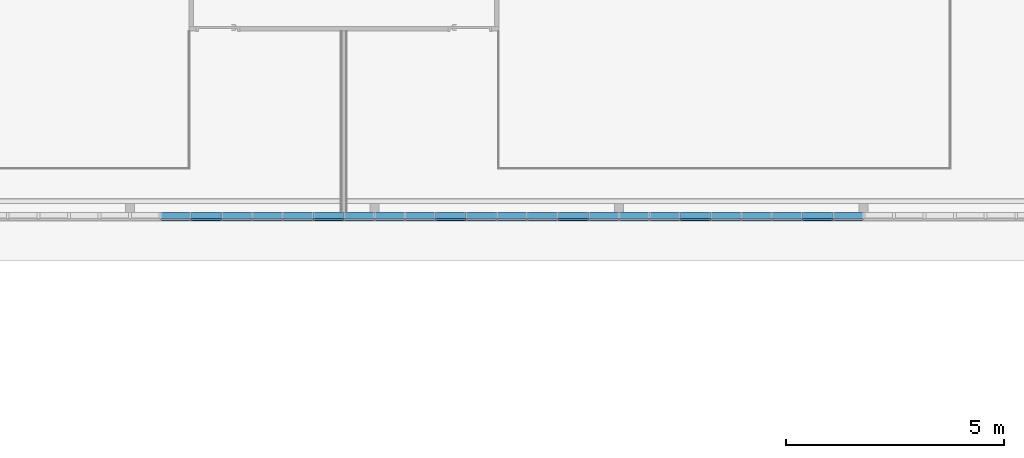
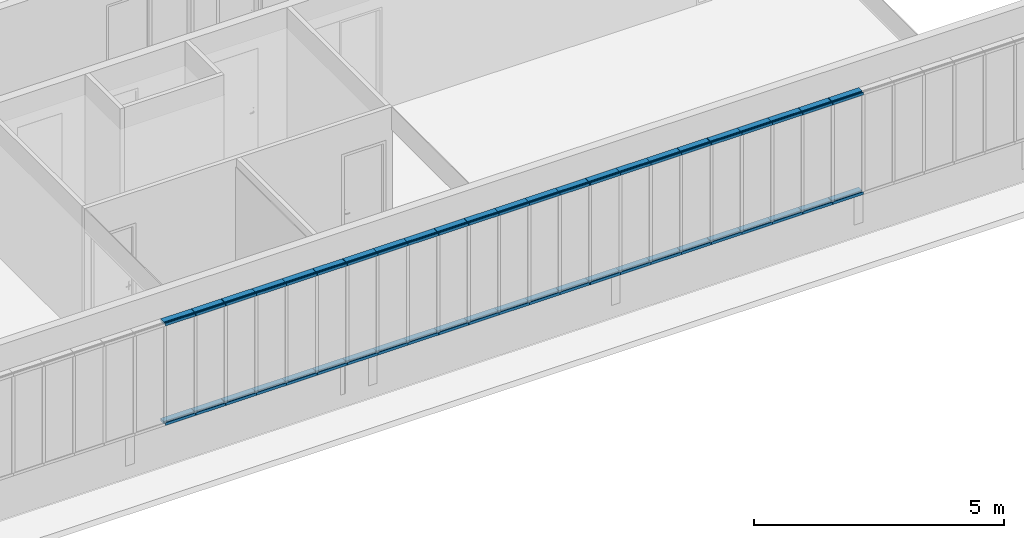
# One storey, part 9 of 87: 58 members, 1 element without a shape of its own.
"""IFC2X3 building model written with IfcOpenShell, lengths in centimetres."""

from ifc_helpers import new_model, entity, si_unit, converted_unit, derived_unit, direction, frame, origin, place, context, subcontext, project, spatial, polyline, outline, extrude, source, transform, mapped, material, type_object, type_shapes, element, aggregate, save


model = new_model("IFC2X3")

# Units and contexts
model_context = context("Model", 3, precision=0.001, world=origin(), true_north=direction((6.12303176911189e-17, 1.0)))
body_context = subcontext(model_context, "Body", "Model", "MODEL_VIEW")
ifc_project = project(units=[si_unit("LENGTHUNIT", "METRE", prefix="CENTI"), si_unit("AREAUNIT", "SQUARE_METRE"), si_unit("VOLUMEUNIT", "CUBIC_METRE"), converted_unit("PLANEANGLEUNIT", "DEGREE", entity("IfcRatioMeasure", 0.0174532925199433), si_unit("PLANEANGLEUNIT", "RADIAN"), dimensions=[0, 0, 0, 0, 0, 0, 0]), si_unit("MASSUNIT", "GRAM", prefix="KILO"), derived_unit("MASSDENSITYUNIT", [(si_unit("MASSUNIT", "GRAM", prefix="KILO"), 1), (si_unit("LENGTHUNIT", "METRE"), -3)]), si_unit("TIMEUNIT", "SECOND"), si_unit("FREQUENCYUNIT", "HERTZ"), si_unit("THERMODYNAMICTEMPERATUREUNIT", "DEGREE_CELSIUS"), derived_unit("THERMALTRANSMITTANCEUNIT", [(si_unit("MASSUNIT", "GRAM", prefix="KILO"), 1), (si_unit("THERMODYNAMICTEMPERATUREUNIT", "KELVIN"), -1), (si_unit("TIMEUNIT", "SECOND"), -3)]), derived_unit("VOLUMETRICFLOWRATEUNIT", [(si_unit("LENGTHUNIT", "METRE"), 3), (si_unit("TIMEUNIT", "SECOND"), -1)]), si_unit("ELECTRICCURRENTUNIT", "AMPERE"), si_unit("ELECTRICVOLTAGEUNIT", "VOLT"), si_unit("POWERUNIT", "WATT"), si_unit("FORCEUNIT", "NEWTON", prefix="KILO"), si_unit("ILLUMINANCEUNIT", "LUX"), si_unit("LUMINOUSFLUXUNIT", "LUMEN"), si_unit("LUMINOUSINTENSITYUNIT", "CANDELA"), derived_unit("USERDEFINED", [(si_unit("MASSUNIT", "GRAM", prefix="KILO"), -1), (si_unit("LENGTHUNIT", "METRE"), -2), (si_unit("TIMEUNIT", "SECOND"), 3), (si_unit("LUMINOUSFLUXUNIT", "LUMEN"), 1)]), derived_unit("LINEARVELOCITYUNIT", [(si_unit("LENGTHUNIT", "METRE"), 1), (si_unit("TIMEUNIT", "SECOND"), -1)]), si_unit("PRESSUREUNIT", "PASCAL"), derived_unit("USERDEFINED", [(si_unit("LENGTHUNIT", "METRE"), -2), (si_unit("MASSUNIT", "GRAM", prefix="KILO"), 1), (si_unit("TIMEUNIT", "SECOND"), -2)])], contexts=[model_context])

# Site, building, storey
site_placement = place(None, frame((-2781.94577612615, 7442.24238424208, 0.0)))
site = spatial("IfcSite", under=ifc_project, at=site_placement, Name="Default", CompositionType="ELEMENT")
building_placement = place(site_placement, origin())
building = spatial("IfcBuilding", under=site, at=building_placement, CompositionType="ELEMENT")
storey_placement = place(building_placement, frame((0.0, 0.0, 774.0)))
storey = spatial("IfcBuildingStorey", under=building, at=storey_placement, Name="TR - N02 - ARCH", CompositionType="ELEMENT", Elevation=774.0)

# Curtain wall, members
curtain_wall_type = type_object("IfcCurtainWallType", Name="Mur-rideau:07 - mur rideau trame 70cm", PredefinedType="NOTDEFINED")
curtain_wall_placement = place(storey_placement, frame((0.0, 0.0, -774.0)))
curtain_wall = element("IfcCurtainWall", 1, at=curtain_wall_placement, inside=storey, type_object=curtain_wall_type, Name="Mur-rideau:07 - mur rideau trame 70cm", ObjectType="Mur-rideau:07 - mur rideau trame 70cm")
ifc_material = material(Name="Aluminium")
member_type_1 = type_object("IfcMemberType", Name="150 x 25mm Détails", PredefinedType="MEMBER")
shared_shape_1 = source(origin(), body_context, "Body", "SweptSolid", [
    extrude(outline(polyline([(-5.6666666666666, -3.24999999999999), (-3.66666666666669, -3.24999999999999), (-3.66666666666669, -0.868749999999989), (-0.166666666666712, -0.868749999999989), (-0.166666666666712, -3.25000000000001), (13.3333333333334, -3.25000000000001), (13.3333333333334, 3.24999999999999), (-0.16666666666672, 3.24999999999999), (-0.16666666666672, 0.868749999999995), (-3.66666666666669, 0.868749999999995), (-3.66666666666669, 3.25), (-5.6666666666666, 3.25), (-5.6666666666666, -3.24999999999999)])), frame((-3.24999999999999, -1.96666666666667, -70.0), z_axis=(0.0, 0.0, 1.0), x_axis=(0.0, -1.0, 0.0)), (0.0, 0.0, 1.0), 69.9999999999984),
])
type_shapes(member_type_1, [shared_shape_1])
member_1_placement = place(storey_placement, frame((-6729.49987763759, -1946.27903364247, 332.5), z_axis=(1.0, 0.0, 0.0), x_axis=(0.0, 0.0, 1.0)))
member_1 = element("IfcMember", 2, at=member_1_placement, type_object=member_type_1, material=ifc_material, Name="Meneau rectangulaire:150 x 25mm Détails", ObjectType="Meneau rectangulaire:150 x 25mm Détails", context=body_context, shape_type="MappedRepresentation", body=[
    mapped(shared_shape_1, transform((0.0, 0.0, 0.0), scale=1.0)),
])
member_2_placement = place(storey_placement, frame((-6659.49987763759, -1946.27903364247, 332.5), z_axis=(1.0, 0.0, 0.0), x_axis=(0.0, 0.0, 1.0)))
member_2 = element("IfcMember", 3, at=member_2_placement, type_object=member_type_1, material=ifc_material, Name="Meneau rectangulaire:150 x 25mm Détails", ObjectType="Meneau rectangulaire:150 x 25mm Détails", context=body_context, shape_type="MappedRepresentation", body=[
    mapped(shared_shape_1, transform((0.0, 0.0, 0.0), scale=1.0)),
])
member_3_placement = place(storey_placement, frame((-6589.49987763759, -1946.27903364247, 332.5), z_axis=(1.0, 0.0, 0.0), x_axis=(0.0, 0.0, 1.0)))
member_3 = element("IfcMember", 4, at=member_3_placement, type_object=member_type_1, material=ifc_material, Name="Meneau rectangulaire:150 x 25mm Détails", ObjectType="Meneau rectangulaire:150 x 25mm Détails", context=body_context, shape_type="MappedRepresentation", body=[
    mapped(shared_shape_1, transform((0.0, 0.0, 0.0), scale=1.0)),
])
member_4_placement = place(storey_placement, frame((-6519.49987763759, -1946.27903364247, 332.5), z_axis=(1.0, 0.0, 0.0), x_axis=(0.0, 0.0, 1.0)))
member_4 = element("IfcMember", 5, at=member_4_placement, type_object=member_type_1, material=ifc_material, Name="Meneau rectangulaire:150 x 25mm Détails", ObjectType="Meneau rectangulaire:150 x 25mm Détails", context=body_context, shape_type="MappedRepresentation", body=[
    mapped(shared_shape_1, transform((0.0, 0.0, 0.0), scale=1.0)),
])
member_5_placement = place(storey_placement, frame((-6449.49987763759, -1946.27903364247, 332.5), z_axis=(1.0, 0.0, 0.0), x_axis=(0.0, 0.0, 1.0)))
member_5 = element("IfcMember", 6, at=member_5_placement, type_object=member_type_1, material=ifc_material, Name="Meneau rectangulaire:150 x 25mm Détails", ObjectType="Meneau rectangulaire:150 x 25mm Détails", context=body_context, shape_type="MappedRepresentation", body=[
    mapped(shared_shape_1, transform((0.0, 0.0, 0.0), scale=1.0)),
])
member_6_placement = place(storey_placement, frame((-6379.49987763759, -1946.27903364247, 332.5), z_axis=(1.0, 0.0, 0.0), x_axis=(0.0, 0.0, 1.0)))
member_6 = element("IfcMember", 7, at=member_6_placement, type_object=member_type_1, material=ifc_material, Name="Meneau rectangulaire:150 x 25mm Détails", ObjectType="Meneau rectangulaire:150 x 25mm Détails", context=body_context, shape_type="MappedRepresentation", body=[
    mapped(shared_shape_1, transform((0.0, 0.0, 0.0), scale=1.0)),
])
member_7_placement = place(storey_placement, frame((-6309.49987763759, -1946.27903364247, 332.5), z_axis=(1.0, 0.0, 0.0), x_axis=(0.0, 0.0, 1.0)))
member_7 = element("IfcMember", 8, at=member_7_placement, type_object=member_type_1, material=ifc_material, Name="Meneau rectangulaire:150 x 25mm Détails", ObjectType="Meneau rectangulaire:150 x 25mm Détails", context=body_context, shape_type="MappedRepresentation", body=[
    mapped(shared_shape_1, transform((0.0, 0.0, 0.0), scale=1.0)),
])
member_8_placement = place(storey_placement, frame((-6239.49987763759, -1946.27903364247, 332.5), z_axis=(1.0, 0.0, 0.0), x_axis=(0.0, 0.0, 1.0)))
member_8 = element("IfcMember", 9, at=member_8_placement, type_object=member_type_1, material=ifc_material, Name="Meneau rectangulaire:150 x 25mm Détails", ObjectType="Meneau rectangulaire:150 x 25mm Détails", context=body_context, shape_type="MappedRepresentation", body=[
    mapped(shared_shape_1, transform((0.0, 0.0, 0.0), scale=1.0)),
])
member_9_placement = place(storey_placement, frame((-6169.49987763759, -1946.27903364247, 332.5), z_axis=(1.0, 0.0, 0.0), x_axis=(0.0, 0.0, 1.0)))
member_9 = element("IfcMember", 10, at=member_9_placement, type_object=member_type_1, material=ifc_material, Name="Meneau rectangulaire:150 x 25mm Détails", ObjectType="Meneau rectangulaire:150 x 25mm Détails", context=body_context, shape_type="MappedRepresentation", body=[
    mapped(shared_shape_1, transform((0.0, 0.0, 0.0), scale=1.0)),
])
member_10_placement = place(storey_placement, frame((-6099.49987763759, -1946.27903364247, 332.5), z_axis=(1.0, 0.0, 0.0), x_axis=(0.0, 0.0, 1.0)))
member_10 = element("IfcMember", 11, at=member_10_placement, type_object=member_type_1, material=ifc_material, Name="Meneau rectangulaire:150 x 25mm Détails", ObjectType="Meneau rectangulaire:150 x 25mm Détails", context=body_context, shape_type="MappedRepresentation", body=[
    mapped(shared_shape_1, transform((0.0, 0.0, 0.0), scale=1.0)),
])
member_11_placement = place(storey_placement, frame((-6029.49987763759, -1946.27903364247, 332.5), z_axis=(1.0, 0.0, 0.0), x_axis=(0.0, 0.0, 1.0)))
member_11 = element("IfcMember", 12, at=member_11_placement, type_object=member_type_1, material=ifc_material, Name="Meneau rectangulaire:150 x 25mm Détails", ObjectType="Meneau rectangulaire:150 x 25mm Détails", context=body_context, shape_type="MappedRepresentation", body=[
    mapped(shared_shape_1, transform((0.0, 0.0, 0.0), scale=1.0)),
])
member_12_placement = place(storey_placement, frame((-5959.49987763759, -1946.27903364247, 332.5), z_axis=(1.0, 0.0, 0.0), x_axis=(0.0, 0.0, 1.0)))
member_12 = element("IfcMember", 13, at=member_12_placement, type_object=member_type_1, material=ifc_material, Name="Meneau rectangulaire:150 x 25mm Détails", ObjectType="Meneau rectangulaire:150 x 25mm Détails", context=body_context, shape_type="MappedRepresentation", body=[
    mapped(shared_shape_1, transform((0.0, 0.0, 0.0), scale=1.0)),
])
member_13_placement = place(storey_placement, frame((-5889.49987763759, -1946.27903364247, 332.5), z_axis=(1.0, 0.0, 0.0), x_axis=(0.0, 0.0, 1.0)))
member_13 = element("IfcMember", 14, at=member_13_placement, type_object=member_type_1, material=ifc_material, Name="Meneau rectangulaire:150 x 25mm Détails", ObjectType="Meneau rectangulaire:150 x 25mm Détails", context=body_context, shape_type="MappedRepresentation", body=[
    mapped(shared_shape_1, transform((0.0, 0.0, 0.0), scale=1.0)),
])
member_14_placement = place(storey_placement, frame((-5819.49987763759, -1946.27903364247, 332.5), z_axis=(1.0, 0.0, 0.0), x_axis=(0.0, 0.0, 1.0)))
member_14 = element("IfcMember", 15, at=member_14_placement, type_object=member_type_1, material=ifc_material, Name="Meneau rectangulaire:150 x 25mm Détails", ObjectType="Meneau rectangulaire:150 x 25mm Détails", context=body_context, shape_type="MappedRepresentation", body=[
    mapped(shared_shape_1, transform((0.0, 0.0, 0.0), scale=1.0)),
])
member_15_placement = place(storey_placement, frame((-5749.49987763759, -1946.27903364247, 332.5), z_axis=(1.0, 0.0, 0.0), x_axis=(0.0, 0.0, 1.0)))
member_15 = element("IfcMember", 16, at=member_15_placement, type_object=member_type_1, material=ifc_material, Name="Meneau rectangulaire:150 x 25mm Détails", ObjectType="Meneau rectangulaire:150 x 25mm Détails", context=body_context, shape_type="MappedRepresentation", body=[
    mapped(shared_shape_1, transform((0.0, 0.0, 0.0), scale=1.0)),
])
member_16_placement = place(storey_placement, frame((-5679.49987763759, -1946.27903364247, 332.5), z_axis=(1.0, 0.0, 0.0), x_axis=(0.0, 0.0, 1.0)))
member_16 = element("IfcMember", 17, at=member_16_placement, type_object=member_type_1, material=ifc_material, Name="Meneau rectangulaire:150 x 25mm Détails", ObjectType="Meneau rectangulaire:150 x 25mm Détails", context=body_context, shape_type="MappedRepresentation", body=[
    mapped(shared_shape_1, transform((0.0, 0.0, 0.0), scale=1.0)),
])
member_17_placement = place(storey_placement, frame((-5609.49987763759, -1946.27903364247, 332.5), z_axis=(1.0, 0.0, 0.0), x_axis=(0.0, 0.0, 1.0)))
member_17 = element("IfcMember", 18, at=member_17_placement, type_object=member_type_1, material=ifc_material, Name="Meneau rectangulaire:150 x 25mm Détails", ObjectType="Meneau rectangulaire:150 x 25mm Détails", context=body_context, shape_type="MappedRepresentation", body=[
    mapped(shared_shape_1, transform((0.0, 0.0, 0.0), scale=1.0)),
])
member_18_placement = place(storey_placement, frame((-5539.49987763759, -1946.27903364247, 332.5), z_axis=(1.0, 0.0, 0.0), x_axis=(0.0, 0.0, 1.0)))
member_18 = element("IfcMember", 19, at=member_18_placement, type_object=member_type_1, material=ifc_material, Name="Meneau rectangulaire:150 x 25mm Détails", ObjectType="Meneau rectangulaire:150 x 25mm Détails", context=body_context, shape_type="MappedRepresentation", body=[
    mapped(shared_shape_1, transform((0.0, 0.0, 0.0), scale=1.0)),
])
member_19_placement = place(storey_placement, frame((-5469.49987763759, -1946.27903364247, 332.5), z_axis=(1.0, 0.0, 0.0), x_axis=(0.0, 0.0, 1.0)))
member_19 = element("IfcMember", 20, at=member_19_placement, type_object=member_type_1, material=ifc_material, Name="Meneau rectangulaire:150 x 25mm Détails", ObjectType="Meneau rectangulaire:150 x 25mm Détails", context=body_context, shape_type="MappedRepresentation", body=[
    mapped(shared_shape_1, transform((0.0, 0.0, 0.0), scale=1.0)),
])
member_20_placement = place(storey_placement, frame((-5399.49987763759, -1946.27903364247, 332.5), z_axis=(1.0, 0.0, 0.0), x_axis=(0.0, 0.0, 1.0)))
member_20 = element("IfcMember", 21, at=member_20_placement, type_object=member_type_1, material=ifc_material, Name="Meneau rectangulaire:150 x 25mm Détails", ObjectType="Meneau rectangulaire:150 x 25mm Détails", context=body_context, shape_type="MappedRepresentation", body=[
    mapped(shared_shape_1, transform((0.0, 0.0, 0.0), scale=1.0)),
])
member_21_placement = place(storey_placement, frame((-5329.49987763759, -1946.27903364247, 332.5), z_axis=(1.0, 0.0, 0.0), x_axis=(0.0, 0.0, 1.0)))
member_21 = element("IfcMember", 22, at=member_21_placement, type_object=member_type_1, material=ifc_material, Name="Meneau rectangulaire:150 x 25mm Détails", ObjectType="Meneau rectangulaire:150 x 25mm Détails", context=body_context, shape_type="MappedRepresentation", body=[
    mapped(shared_shape_1, transform((0.0, 0.0, 0.0), scale=1.0)),
])
member_22_placement = place(storey_placement, frame((-5259.49987763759, -1946.27903364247, 332.5), z_axis=(1.0, 0.0, 0.0), x_axis=(0.0, 0.0, 1.0)))
member_22 = element("IfcMember", 23, at=member_22_placement, type_object=member_type_1, material=ifc_material, Name="Meneau rectangulaire:150 x 25mm Détails", ObjectType="Meneau rectangulaire:150 x 25mm Détails", context=body_context, shape_type="MappedRepresentation", body=[
    mapped(shared_shape_1, transform((0.0, 0.0, 0.0), scale=1.0)),
])
member_23_placement = place(storey_placement, frame((-5189.49987763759, -1946.27903364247, 332.5), z_axis=(1.0, 0.0, 0.0), x_axis=(0.0, 0.0, 1.0)))
member_23 = element("IfcMember", 24, at=member_23_placement, type_object=member_type_1, material=ifc_material, Name="Meneau rectangulaire:150 x 25mm Détails", ObjectType="Meneau rectangulaire:150 x 25mm Détails", context=body_context, shape_type="MappedRepresentation", body=[
    mapped(shared_shape_1, transform((0.0, 0.0, 0.0), scale=1.0)),
])
member_type_2 = type_object("IfcMemberType", Name="150 x 25mm Détails", PredefinedType="MEMBER")
shared_shape_2 = source(origin(), body_context, "Body", "SweptSolid", [
    extrude(outline(polyline([(-5.66666666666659, -3.25), (-3.66666666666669, -3.25), (-3.66666666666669, -0.868749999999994), (-0.166666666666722, -0.868749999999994), (-0.166666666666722, -3.25000000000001), (13.3333333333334, -3.24999999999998), (13.3333333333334, 3.25000000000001), (-0.166666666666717, 3.25000000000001), (-0.166666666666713, 0.868749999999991), (-3.66666666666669, 0.868749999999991), (-3.66666666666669, 3.24999999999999), (-5.66666666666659, 3.24999999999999), (-5.66666666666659, -3.25)])), frame((-3.24999999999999, -1.96666666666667, -70.0), z_axis=(0.0, 0.0, 1.0), x_axis=(0.0, -1.0, 0.0)), (0.0, 0.0, 1.0), 69.9999999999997),
])
type_shapes(member_type_2, [shared_shape_2])
member_24_placement = place(storey_placement, frame((-6799.49987763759, -1946.27903364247, 83.5), z_axis=(-1.0, 0.0, 0.0), x_axis=(0.0, 0.0, -1.0)))
member_24 = element("IfcMember", 25, at=member_24_placement, type_object=member_type_2, material=ifc_material, Name="Meneau rectangulaire:150 x 25mm Détails", ObjectType="Meneau rectangulaire:150 x 25mm Détails", context=body_context, shape_type="MappedRepresentation", body=[
    mapped(shared_shape_2, transform((0.0, 0.0, 0.0), scale=1.0)),
])
member_25_placement = place(storey_placement, frame((-6729.49987763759, -1946.27903364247, 83.5), z_axis=(-1.0, 0.0, 0.0), x_axis=(0.0, 0.0, -1.0)))
member_25 = element("IfcMember", 26, at=member_25_placement, type_object=member_type_2, material=ifc_material, Name="Meneau rectangulaire:150 x 25mm Détails", ObjectType="Meneau rectangulaire:150 x 25mm Détails", context=body_context, shape_type="MappedRepresentation", body=[
    mapped(shared_shape_2, transform((0.0, 0.0, 0.0), scale=1.0)),
])
member_26_placement = place(storey_placement, frame((-6659.49987763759, -1946.27903364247, 83.5), z_axis=(-1.0, 0.0, 0.0), x_axis=(0.0, 0.0, -1.0)))
member_26 = element("IfcMember", 27, at=member_26_placement, type_object=member_type_2, material=ifc_material, Name="Meneau rectangulaire:150 x 25mm Détails", ObjectType="Meneau rectangulaire:150 x 25mm Détails", context=body_context, shape_type="MappedRepresentation", body=[
    mapped(shared_shape_2, transform((0.0, 0.0, 0.0), scale=1.0)),
])
member_27_placement = place(storey_placement, frame((-6589.49987763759, -1946.27903364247, 83.5), z_axis=(-1.0, 0.0, 0.0), x_axis=(0.0, 0.0, -1.0)))
member_27 = element("IfcMember", 28, at=member_27_placement, type_object=member_type_2, material=ifc_material, Name="Meneau rectangulaire:150 x 25mm Détails", ObjectType="Meneau rectangulaire:150 x 25mm Détails", context=body_context, shape_type="MappedRepresentation", body=[
    mapped(shared_shape_2, transform((0.0, 0.0, 0.0), scale=1.0)),
])
member_28_placement = place(storey_placement, frame((-6519.49987763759, -1946.27903364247, 83.5), z_axis=(-1.0, 0.0, 0.0), x_axis=(0.0, 0.0, -1.0)))
member_28 = element("IfcMember", 29, at=member_28_placement, type_object=member_type_2, material=ifc_material, Name="Meneau rectangulaire:150 x 25mm Détails", ObjectType="Meneau rectangulaire:150 x 25mm Détails", context=body_context, shape_type="MappedRepresentation", body=[
    mapped(shared_shape_2, transform((0.0, 0.0, 0.0), scale=1.0)),
])
member_29_placement = place(storey_placement, frame((-6449.49987763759, -1946.27903364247, 83.5), z_axis=(-1.0, 0.0, 0.0), x_axis=(0.0, 0.0, -1.0)))
member_29 = element("IfcMember", 30, at=member_29_placement, type_object=member_type_2, material=ifc_material, Name="Meneau rectangulaire:150 x 25mm Détails", ObjectType="Meneau rectangulaire:150 x 25mm Détails", context=body_context, shape_type="MappedRepresentation", body=[
    mapped(shared_shape_2, transform((0.0, 0.0, 0.0), scale=1.0)),
])
member_30_placement = place(storey_placement, frame((-6379.49987763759, -1946.27903364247, 83.5), z_axis=(-1.0, 0.0, 0.0), x_axis=(0.0, 0.0, -1.0)))
member_30 = element("IfcMember", 31, at=member_30_placement, type_object=member_type_2, material=ifc_material, Name="Meneau rectangulaire:150 x 25mm Détails", ObjectType="Meneau rectangulaire:150 x 25mm Détails", context=body_context, shape_type="MappedRepresentation", body=[
    mapped(shared_shape_2, transform((0.0, 0.0, 0.0), scale=1.0)),
])
member_31_placement = place(storey_placement, frame((-6309.49987763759, -1946.27903364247, 83.5), z_axis=(-1.0, 0.0, 0.0), x_axis=(0.0, 0.0, -1.0)))
member_31 = element("IfcMember", 32, at=member_31_placement, type_object=member_type_2, material=ifc_material, Name="Meneau rectangulaire:150 x 25mm Détails", ObjectType="Meneau rectangulaire:150 x 25mm Détails", context=body_context, shape_type="MappedRepresentation", body=[
    mapped(shared_shape_2, transform((0.0, 0.0, 0.0), scale=1.0)),
])
member_32_placement = place(storey_placement, frame((-6239.49987763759, -1946.27903364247, 83.5), z_axis=(-1.0, 0.0, 0.0), x_axis=(0.0, 0.0, -1.0)))
member_32 = element("IfcMember", 33, at=member_32_placement, type_object=member_type_2, material=ifc_material, Name="Meneau rectangulaire:150 x 25mm Détails", ObjectType="Meneau rectangulaire:150 x 25mm Détails", context=body_context, shape_type="MappedRepresentation", body=[
    mapped(shared_shape_2, transform((0.0, 0.0, 0.0), scale=1.0)),
])
member_33_placement = place(storey_placement, frame((-6169.49987763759, -1946.27903364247, 83.5), z_axis=(-1.0, 0.0, 0.0), x_axis=(0.0, 0.0, -1.0)))
member_33 = element("IfcMember", 34, at=member_33_placement, type_object=member_type_2, material=ifc_material, Name="Meneau rectangulaire:150 x 25mm Détails", ObjectType="Meneau rectangulaire:150 x 25mm Détails", context=body_context, shape_type="MappedRepresentation", body=[
    mapped(shared_shape_2, transform((0.0, 0.0, 0.0), scale=1.0)),
])
member_34_placement = place(storey_placement, frame((-6099.49987763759, -1946.27903364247, 83.5), z_axis=(-1.0, 0.0, 0.0), x_axis=(0.0, 0.0, -1.0)))
member_34 = element("IfcMember", 35, at=member_34_placement, type_object=member_type_2, material=ifc_material, Name="Meneau rectangulaire:150 x 25mm Détails", ObjectType="Meneau rectangulaire:150 x 25mm Détails", context=body_context, shape_type="MappedRepresentation", body=[
    mapped(shared_shape_2, transform((0.0, 0.0, 0.0), scale=1.0)),
])
member_35_placement = place(storey_placement, frame((-6029.49987763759, -1946.27903364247, 83.5), z_axis=(-1.0, 0.0, 0.0), x_axis=(0.0, 0.0, -1.0)))
member_35 = element("IfcMember", 36, at=member_35_placement, type_object=member_type_2, material=ifc_material, Name="Meneau rectangulaire:150 x 25mm Détails", ObjectType="Meneau rectangulaire:150 x 25mm Détails", context=body_context, shape_type="MappedRepresentation", body=[
    mapped(shared_shape_2, transform((0.0, 0.0, 0.0), scale=1.0)),
])
member_36_placement = place(storey_placement, frame((-5959.49987763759, -1946.27903364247, 83.5), z_axis=(-1.0, 0.0, 0.0), x_axis=(0.0, 0.0, -1.0)))
member_36 = element("IfcMember", 37, at=member_36_placement, type_object=member_type_2, material=ifc_material, Name="Meneau rectangulaire:150 x 25mm Détails", ObjectType="Meneau rectangulaire:150 x 25mm Détails", context=body_context, shape_type="MappedRepresentation", body=[
    mapped(shared_shape_2, transform((0.0, 0.0, 0.0), scale=1.0)),
])
member_37_placement = place(storey_placement, frame((-5889.49987763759, -1946.27903364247, 83.5), z_axis=(-1.0, 0.0, 0.0), x_axis=(0.0, 0.0, -1.0)))
member_37 = element("IfcMember", 38, at=member_37_placement, type_object=member_type_2, material=ifc_material, Name="Meneau rectangulaire:150 x 25mm Détails", ObjectType="Meneau rectangulaire:150 x 25mm Détails", context=body_context, shape_type="MappedRepresentation", body=[
    mapped(shared_shape_2, transform((0.0, 0.0, 0.0), scale=1.0)),
])
member_38_placement = place(storey_placement, frame((-5819.49987763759, -1946.27903364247, 83.5), z_axis=(-1.0, 0.0, 0.0), x_axis=(0.0, 0.0, -1.0)))
member_38 = element("IfcMember", 39, at=member_38_placement, type_object=member_type_2, material=ifc_material, Name="Meneau rectangulaire:150 x 25mm Détails", ObjectType="Meneau rectangulaire:150 x 25mm Détails", context=body_context, shape_type="MappedRepresentation", body=[
    mapped(shared_shape_2, transform((0.0, 0.0, 0.0), scale=1.0)),
])
member_39_placement = place(storey_placement, frame((-5749.49987763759, -1946.27903364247, 83.5), z_axis=(-1.0, 0.0, 0.0), x_axis=(0.0, 0.0, -1.0)))
member_39 = element("IfcMember", 40, at=member_39_placement, type_object=member_type_2, material=ifc_material, Name="Meneau rectangulaire:150 x 25mm Détails", ObjectType="Meneau rectangulaire:150 x 25mm Détails", context=body_context, shape_type="MappedRepresentation", body=[
    mapped(shared_shape_2, transform((0.0, 0.0, 0.0), scale=1.0)),
])
member_40_placement = place(storey_placement, frame((-5679.49987763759, -1946.27903364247, 83.5), z_axis=(-1.0, 0.0, 0.0), x_axis=(0.0, 0.0, -1.0)))
member_40 = element("IfcMember", 41, at=member_40_placement, type_object=member_type_2, material=ifc_material, Name="Meneau rectangulaire:150 x 25mm Détails", ObjectType="Meneau rectangulaire:150 x 25mm Détails", context=body_context, shape_type="MappedRepresentation", body=[
    mapped(shared_shape_2, transform((0.0, 0.0, 0.0), scale=1.0)),
])
member_41_placement = place(storey_placement, frame((-5609.49987763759, -1946.27903364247, 83.5), z_axis=(-1.0, 0.0, 0.0), x_axis=(0.0, 0.0, -1.0)))
member_41 = element("IfcMember", 42, at=member_41_placement, type_object=member_type_2, material=ifc_material, Name="Meneau rectangulaire:150 x 25mm Détails", ObjectType="Meneau rectangulaire:150 x 25mm Détails", context=body_context, shape_type="MappedRepresentation", body=[
    mapped(shared_shape_2, transform((0.0, 0.0, 0.0), scale=1.0)),
])
member_42_placement = place(storey_placement, frame((-5539.49987763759, -1946.27903364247, 83.5), z_axis=(-1.0, 0.0, 0.0), x_axis=(0.0, 0.0, -1.0)))
member_42 = element("IfcMember", 43, at=member_42_placement, type_object=member_type_2, material=ifc_material, Name="Meneau rectangulaire:150 x 25mm Détails", ObjectType="Meneau rectangulaire:150 x 25mm Détails", context=body_context, shape_type="MappedRepresentation", body=[
    mapped(shared_shape_2, transform((0.0, 0.0, 0.0), scale=1.0)),
])
member_43_placement = place(storey_placement, frame((-5469.49987763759, -1946.27903364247, 83.5), z_axis=(-1.0, 0.0, 0.0), x_axis=(0.0, 0.0, -1.0)))
member_43 = element("IfcMember", 44, at=member_43_placement, type_object=member_type_2, material=ifc_material, Name="Meneau rectangulaire:150 x 25mm Détails", ObjectType="Meneau rectangulaire:150 x 25mm Détails", context=body_context, shape_type="MappedRepresentation", body=[
    mapped(shared_shape_2, transform((0.0, 0.0, 0.0), scale=1.0)),
])
member_44_placement = place(storey_placement, frame((-5399.49987763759, -1946.27903364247, 83.5), z_axis=(-1.0, 0.0, 0.0), x_axis=(0.0, 0.0, -1.0)))
member_44 = element("IfcMember", 45, at=member_44_placement, type_object=member_type_2, material=ifc_material, Name="Meneau rectangulaire:150 x 25mm Détails", ObjectType="Meneau rectangulaire:150 x 25mm Détails", context=body_context, shape_type="MappedRepresentation", body=[
    mapped(shared_shape_2, transform((0.0, 0.0, 0.0), scale=1.0)),
])
member_45_placement = place(storey_placement, frame((-5329.49987763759, -1946.27903364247, 83.5), z_axis=(-1.0, 0.0, 0.0), x_axis=(0.0, 0.0, -1.0)))
member_45 = element("IfcMember", 46, at=member_45_placement, type_object=member_type_2, material=ifc_material, Name="Meneau rectangulaire:150 x 25mm Détails", ObjectType="Meneau rectangulaire:150 x 25mm Détails", context=body_context, shape_type="MappedRepresentation", body=[
    mapped(shared_shape_2, transform((0.0, 0.0, 0.0), scale=1.0)),
])
member_46_placement = place(storey_placement, frame((-5259.49987763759, -1946.27903364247, 83.5), z_axis=(-1.0, 0.0, 0.0), x_axis=(0.0, 0.0, -1.0)))
member_46 = element("IfcMember", 47, at=member_46_placement, type_object=member_type_2, material=ifc_material, Name="Meneau rectangulaire:150 x 25mm Détails", ObjectType="Meneau rectangulaire:150 x 25mm Détails", context=body_context, shape_type="MappedRepresentation", body=[
    mapped(shared_shape_2, transform((0.0, 0.0, 0.0), scale=1.0)),
])
member_type_3 = type_object("IfcMemberType", Name="150 x 25mm Détails", PredefinedType="MEMBER")
shared_shape_3 = source(origin(), body_context, "Body", "SweptSolid", [
    extrude(outline(polyline([(-5.66666666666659, -3.25), (-3.66666666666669, -3.25), (-3.66666666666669, -0.868749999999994), (-0.166666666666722, -0.868749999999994), (-0.166666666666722, -3.25000000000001), (13.3333333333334, -3.24999999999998), (13.3333333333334, 3.25000000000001), (-0.166666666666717, 3.25000000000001), (-0.166666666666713, 0.868749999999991), (-3.66666666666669, 0.868749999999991), (-3.66666666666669, 3.24999999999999), (-5.66666666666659, 3.24999999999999), (-5.66666666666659, -3.25)])), frame((-3.24999999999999, -1.96666666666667, -68.0), z_axis=(0.0, 0.0, 1.0), x_axis=(0.0, -1.0, 0.0)), (0.0, 0.0, 1.0), 68.0000000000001),
])
type_shapes(member_type_3, [shared_shape_3])
member_47_placement = place(storey_placement, frame((-5888.74987242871, -1946.27903364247, 326.0), z_axis=(-1.0, 0.0, 0.0), x_axis=(0.0, 0.0, -1.0)))
member_47 = element("IfcMember", 48, at=member_47_placement, type_object=member_type_3, material=ifc_material, Name="Meneau rectangulaire:150 x 25mm Détails", ObjectType="Meneau rectangulaire:150 x 25mm Détails", context=body_context, shape_type="MappedRepresentation", body=[
    mapped(shared_shape_3, transform((0.0, 0.0, 0.0), scale=1.0)),
])
member_48_placement = place(storey_placement, frame((-5608.74987242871, -1946.27903364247, 326.0), z_axis=(-1.0, 0.0, 0.0), x_axis=(0.0, 0.0, -1.0)))
member_48 = element("IfcMember", 49, at=member_48_placement, type_object=member_type_3, material=ifc_material, Name="Meneau rectangulaire:150 x 25mm Détails", ObjectType="Meneau rectangulaire:150 x 25mm Détails", context=body_context, shape_type="MappedRepresentation", body=[
    mapped(shared_shape_3, transform((0.0, 0.0, 0.0), scale=1.0)),
])
member_49_placement = place(storey_placement, frame((-5328.74987242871, -1946.27903364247, 326.0), z_axis=(-1.0, 0.0, 0.0), x_axis=(0.0, 0.0, -1.0)))
member_49 = element("IfcMember", 50, at=member_49_placement, type_object=member_type_3, material=ifc_material, Name="Meneau rectangulaire:150 x 25mm Détails", ObjectType="Meneau rectangulaire:150 x 25mm Détails", context=body_context, shape_type="MappedRepresentation", body=[
    mapped(shared_shape_3, transform((0.0, 0.0, 0.0), scale=1.0)),
])
member_50_placement = place(storey_placement, frame((-6168.74987242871, -1946.27903364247, 326.0), z_axis=(-1.0, 0.0, 0.0), x_axis=(0.0, 0.0, -1.0)))
member_50 = element("IfcMember", 51, at=member_50_placement, type_object=member_type_3, material=ifc_material, Name="Meneau rectangulaire:150 x 25mm Détails", ObjectType="Meneau rectangulaire:150 x 25mm Détails", context=body_context, shape_type="MappedRepresentation", body=[
    mapped(shared_shape_3, transform((0.0, 0.0, 0.0), scale=1.0)),
])
member_51_placement = place(storey_placement, frame((-6728.74987242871, -1946.27903364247, 326.0), z_axis=(-1.0, 0.0, 0.0), x_axis=(0.0, 0.0, -1.0)))
member_51 = element("IfcMember", 52, at=member_51_placement, type_object=member_type_3, material=ifc_material, Name="Meneau rectangulaire:150 x 25mm Détails", ObjectType="Meneau rectangulaire:150 x 25mm Détails", context=body_context, shape_type="MappedRepresentation", body=[
    mapped(shared_shape_3, transform((0.0, 0.0, 0.0), scale=1.0)),
])
member_52_placement = place(storey_placement, frame((-6448.74987242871, -1946.27903364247, 326.0), z_axis=(-1.0, 0.0, 0.0), x_axis=(0.0, 0.0, -1.0)))
member_52 = element("IfcMember", 53, at=member_52_placement, type_object=member_type_3, material=ifc_material, Name="Meneau rectangulaire:150 x 25mm Détails", ObjectType="Meneau rectangulaire:150 x 25mm Détails", context=body_context, shape_type="MappedRepresentation", body=[
    mapped(shared_shape_3, transform((0.0, 0.0, 0.0), scale=1.0)),
])
member_type_4 = type_object("IfcMemberType", Name="150 x 25mm Détails", PredefinedType="MEMBER")
shared_shape_4 = source(origin(), body_context, "Body", "SweptSolid", [
    extrude(outline(polyline([(-5.6666666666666, -3.24999999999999), (-3.66666666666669, -3.24999999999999), (-3.66666666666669, -0.868749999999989), (-0.166666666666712, -0.868749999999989), (-0.166666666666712, -3.25000000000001), (13.3333333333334, -3.25000000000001), (13.3333333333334, 3.24999999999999), (-0.16666666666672, 3.24999999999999), (-0.16666666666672, 0.868749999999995), (-3.66666666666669, 0.868749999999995), (-3.66666666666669, 3.25), (-5.6666666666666, 3.25), (-5.6666666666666, -3.24999999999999)])), frame((-3.24999999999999, -1.96666666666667, -68.0), z_axis=(0.0, 0.0, 1.0), x_axis=(0.0, -1.0, 0.0)), (0.0, 0.0, 1.0), 68.0000000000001),
])
type_shapes(member_type_4, [shared_shape_4])
member_53_placement = place(storey_placement, frame((-5820.74987242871, -1946.27903364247, 90.0), z_axis=(1.0, 0.0, 0.0), x_axis=(0.0, 0.0, 1.0)))
member_53 = element("IfcMember", 54, at=member_53_placement, type_object=member_type_4, material=ifc_material, Name="Meneau rectangulaire:150 x 25mm Détails", ObjectType="Meneau rectangulaire:150 x 25mm Détails", context=body_context, shape_type="MappedRepresentation", body=[
    mapped(shared_shape_4, transform((0.0, 0.0, 0.0), scale=1.0)),
])
member_54_placement = place(storey_placement, frame((-5540.74987242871, -1946.27903364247, 90.0), z_axis=(1.0, 0.0, 0.0), x_axis=(0.0, 0.0, 1.0)))
member_54 = element("IfcMember", 55, at=member_54_placement, type_object=member_type_4, material=ifc_material, Name="Meneau rectangulaire:150 x 25mm Détails", ObjectType="Meneau rectangulaire:150 x 25mm Détails", context=body_context, shape_type="MappedRepresentation", body=[
    mapped(shared_shape_4, transform((0.0, 0.0, 0.0), scale=1.0)),
])
member_55_placement = place(storey_placement, frame((-5260.74987242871, -1946.27903364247, 90.0), z_axis=(1.0, 0.0, 0.0), x_axis=(0.0, 0.0, 1.0)))
member_55 = element("IfcMember", 56, at=member_55_placement, type_object=member_type_4, material=ifc_material, Name="Meneau rectangulaire:150 x 25mm Détails", ObjectType="Meneau rectangulaire:150 x 25mm Détails", context=body_context, shape_type="MappedRepresentation", body=[
    mapped(shared_shape_4, transform((0.0, 0.0, 0.0), scale=1.0)),
])
member_56_placement = place(storey_placement, frame((-6100.74987242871, -1946.27903364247, 90.0), z_axis=(1.0, 0.0, 0.0), x_axis=(0.0, 0.0, 1.0)))
member_56 = element("IfcMember", 57, at=member_56_placement, type_object=member_type_4, material=ifc_material, Name="Meneau rectangulaire:150 x 25mm Détails", ObjectType="Meneau rectangulaire:150 x 25mm Détails", context=body_context, shape_type="MappedRepresentation", body=[
    mapped(shared_shape_4, transform((0.0, 0.0, 0.0), scale=1.0)),
])
member_57_placement = place(storey_placement, frame((-6660.74987242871, -1946.27903364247, 90.0), z_axis=(1.0, 0.0, 0.0), x_axis=(0.0, 0.0, 1.0)))
member_57 = element("IfcMember", 58, at=member_57_placement, type_object=member_type_4, material=ifc_material, Name="Meneau rectangulaire:150 x 25mm Détails", ObjectType="Meneau rectangulaire:150 x 25mm Détails", context=body_context, shape_type="MappedRepresentation", body=[
    mapped(shared_shape_4, transform((0.0, 0.0, 0.0), scale=1.0)),
])
member_58_placement = place(storey_placement, frame((-6380.74987242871, -1946.27903364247, 90.0), z_axis=(1.0, 0.0, 0.0), x_axis=(0.0, 0.0, 1.0)))
member_58 = element("IfcMember", 59, at=member_58_placement, type_object=member_type_4, material=ifc_material, Name="Meneau rectangulaire:150 x 25mm Détails", ObjectType="Meneau rectangulaire:150 x 25mm Détails", context=body_context, shape_type="MappedRepresentation", body=[
    mapped(shared_shape_4, transform((0.0, 0.0, 0.0), scale=1.0)),
])
aggregate(curtain_wall, [member_1, member_2, member_3, member_4, member_5, member_6, member_7, member_8, member_9, member_10, member_11, member_12, member_13, member_14, member_15, member_16, member_17, member_18, member_19, member_20, member_21, member_22, member_23, member_24, member_25, member_26, member_27, member_28, member_29, member_30, member_31, member_32, member_33, member_34, member_35, member_36, member_37, member_38, member_39, member_40, member_41, member_42, member_43, member_44, member_45, member_46, member_47, member_53, member_48, member_54, member_49, member_55, member_50, member_56, member_51, member_57, member_52, member_58])

save(model, "model.ifc")
